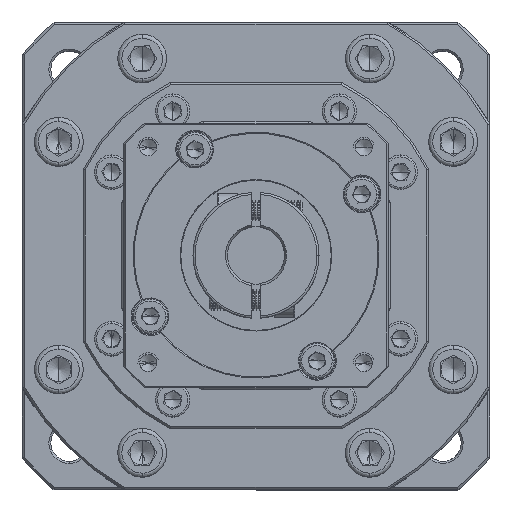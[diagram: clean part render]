
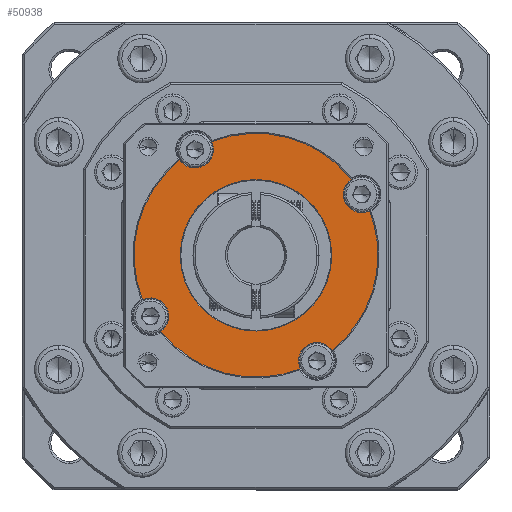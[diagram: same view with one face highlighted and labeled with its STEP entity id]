
A CAD part, top view. The second image highlights one B-rep face of the part: STEP entity #50938.
In plain terms, the highlighted planar face has unit normal (0, 0, 1).
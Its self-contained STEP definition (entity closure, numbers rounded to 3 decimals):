
#77 = PLANE ( 'NONE',  #88003 ) ;
#472 = DIRECTION ( 'NONE',  ( 1., 0., 0. ) ) ;
#1941 = EDGE_CURVE ( 'NONE', #41980, #37303, #7742, .T. ) ;
#3956 = CIRCLE ( 'NONE', #109524, 18.644 ) ;
#6648 = EDGE_CURVE ( 'NONE', #94923, #30327, #40286, .T. ) ;
#7053 = CIRCLE ( 'NONE', #41479, 30. ) ;
#7530 = CARTESIAN_POINT ( 'NONE',  ( -69.313, 52.222, -11.319 ) ) ;
#7742 = CIRCLE ( 'NONE', #78921, 30. ) ;
#8686 = VERTEX_POINT ( 'NONE', #97200 ) ;
#9821 = CARTESIAN_POINT ( 'NONE',  ( -39.313, 0.261, -11.319 ) ) ;
#10437 = CARTESIAN_POINT ( 'NONE',  ( -54.313, 26.241, -11.319 ) ) ;
#11785 = CARTESIAN_POINT ( 'NONE',  ( -69.313, 52.222, -11.319 ) ) ;
#12461 = DIRECTION ( 'NONE',  ( 0., 0., 1. ) ) ;
#12470 = CIRCLE ( 'NONE', #109090, 4.5 ) ;
#12629 = CARTESIAN_POINT ( 'NONE',  ( -28.332, 41.241, -11.319 ) ) ;
#12985 = CARTESIAN_POINT ( 'NONE',  ( -65.258, 54.174, -11.319 ) ) ;
#13155 = ORIENTED_EDGE ( 'NONE', *, *, #45220, .T. ) ;
#13854 = VERTEX_POINT ( 'NONE', #108018 ) ;
#14405 = AXIS2_PLACEMENT_3D ( 'NONE', #78451, #22332, #87800 ) ;
#14513 = EDGE_CURVE ( 'NONE', #41980, #8686, #46157, .T. ) ;
#14715 = VERTEX_POINT ( 'NONE', #74415 ) ;
#15050 = AXIS2_PLACEMENT_3D ( 'NONE', #10437, #75987, #19807 ) ;
#15595 = ORIENTED_EDGE ( 'NONE', *, *, #90322, .F. ) ;
#15859 = DIRECTION ( 'NONE',  ( 0., 0., 1. ) ) ;
#16686 = CIRCLE ( 'NONE', #79458, 4.5 ) ;
#16967 = DIRECTION ( 'NONE',  ( 1., 0., 0. ) ) ;
#18429 = ORIENTED_EDGE ( 'NONE', *, *, #30682, .F. ) ;
#18536 = VERTEX_POINT ( 'NONE', #57305 ) ;
#19194 = DIRECTION ( 'NONE',  ( 1., 0., 0. ) ) ;
#19798 = CARTESIAN_POINT ( 'NONE',  ( -77.758, 7.524, -11.319 ) ) ;
#19807 = DIRECTION ( 'NONE',  ( 1., 0., 0. ) ) ;
#20852 = DIRECTION ( 'NONE',  ( 0., 0., 1. ) ) ;
#21166 = DIRECTION ( 'NONE',  ( 1., 0., 0. ) ) ;
#22007 = DIRECTION ( 'NONE',  ( 1., 0., 0. ) ) ;
#22332 = DIRECTION ( 'NONE',  ( 0., 0., 1. ) ) ;
#24933 = ORIENTED_EDGE ( 'NONE', *, *, #93986, .T. ) ;
#25366 = CARTESIAN_POINT ( 'NONE',  ( -24.313, 26.241, -11.319 ) ) ;
#25790 = CIRCLE ( 'NONE', #110737, 18.644 ) ;
#26848 = CIRCLE ( 'NONE', #15050, 30. ) ;
#27376 = CARTESIAN_POINT ( 'NONE',  ( -28.332, 41.241, -11.319 ) ) ;
#27582 = CIRCLE ( 'NONE', #120538, 30. ) ;
#27841 = CIRCLE ( 'NONE', #119653, 4.5 ) ;
#28562 = CARTESIAN_POINT ( 'NONE',  ( -64.813, 52.222, -11.319 ) ) ;
#30327 = VERTEX_POINT ( 'NONE', #96203 ) ;
#30682 = EDGE_CURVE ( 'NONE', #8686, #43981, #12470, .T. ) ;
#31032 = DIRECTION ( 'NONE',  ( 0., 0., 1. ) ) ;
#31058 = EDGE_CURVE ( 'NONE', #30327, #14715, #16686, .T. ) ;
#31601 = VERTEX_POINT ( 'NONE', #50389 ) ;
#31775 = CARTESIAN_POINT ( 'NONE',  ( -72.957, 26.241, -11.319 ) ) ;
#31873 = ORIENTED_EDGE ( 'NONE', *, *, #1941, .T. ) ;
#34625 = DIRECTION ( 'NONE',  ( 0., 0., 1. ) ) ;
#34691 = FACE_OUTER_BOUND ( 'NONE', #47760, .T. ) ;
#35709 = DIRECTION ( 'NONE',  ( 0., 0., 1. ) ) ;
#36794 = DIRECTION ( 'NONE',  ( 1., 0., 0. ) ) ;
#37303 = VERTEX_POINT ( 'NONE', #25366 ) ;
#38142 = ORIENTED_EDGE ( 'NONE', *, *, #42545, .F. ) ;
#40286 = CIRCLE ( 'NONE', #87481, 4.5 ) ;
#41163 = EDGE_LOOP ( 'NONE', ( #104055, #24933 ) ) ;
#41322 = DIRECTION ( 'NONE',  ( 0., 0., -1. ) ) ;
#41479 = AXIS2_PLACEMENT_3D ( 'NONE', #87106, #31032, #96502 ) ;
#41980 = VERTEX_POINT ( 'NONE', #85293 ) ;
#42545 = EDGE_CURVE ( 'NONE', #18536, #13854, #73528, .T. ) ;
#43981 = VERTEX_POINT ( 'NONE', #67056 ) ;
#44558 = VERTEX_POINT ( 'NONE', #93203 ) ;
#45220 = EDGE_CURVE ( 'NONE', #18536, #104955, #26848, .T. ) ;
#46157 = CIRCLE ( 'NONE', #110915, 4.5 ) ;
#46303 = VERTEX_POINT ( 'NONE', #114191 ) ;
#47760 = EDGE_LOOP ( 'NONE', ( #57871, #92478, #18429, #95070, #31873, #60441, #15595, #38142, #13155, #98175, #73992, #76420, #115460 ) ) ;
#50389 = CARTESIAN_POINT ( 'NONE',  ( -73.03, 49.686, -11.319 ) ) ;
#50493 = CIRCLE ( 'NONE', #116396, 4.5 ) ;
#50938 = ADVANCED_FACE ( 'NONE', ( #59612, #34691 ), #77, .T. ) ;
#51260 = DIRECTION ( 'NONE',  ( 0., 0., -1. ) ) ;
#56475 = DIRECTION ( 'NONE',  ( 0., 0., 1. ) ) ;
#57305 = CARTESIAN_POINT ( 'NONE',  ( -30.868, 44.959, -11.319 ) ) ;
#57871 = ORIENTED_EDGE ( 'NONE', *, *, #6648, .F. ) ;
#59612 = FACE_BOUND ( 'NONE', #41163, .T. ) ;
#60441 = ORIENTED_EDGE ( 'NONE', *, *, #117225, .T. ) ;
#61421 = CIRCLE ( 'NONE', #66560, 4.5 ) ;
#64281 = EDGE_CURVE ( 'NONE', #31601, #14715, #78120, .T. ) ;
#66560 = AXIS2_PLACEMENT_3D ( 'NONE', #12629, #78131, #22007 ) ;
#66784 = EDGE_CURVE ( 'NONE', #109940, #104955, #27841, .T. ) ;
#67056 = CARTESIAN_POINT ( 'NONE',  ( -43.368, -1.691, -11.319 ) ) ;
#67235 = AXIS2_PLACEMENT_3D ( 'NONE', #27376, #92843, #36794 ) ;
#68559 = CARTESIAN_POINT ( 'NONE',  ( -80.294, 11.241, -11.319 ) ) ;
#71983 = CARTESIAN_POINT ( 'NONE',  ( -39.313, 0.261, -11.319 ) ) ;
#73080 = DIRECTION ( 'NONE',  ( 0., 0., 1. ) ) ;
#73528 = CIRCLE ( 'NONE', #67235, 4.5 ) ;
#73992 = ORIENTED_EDGE ( 'NONE', *, *, #83092, .F. ) ;
#74415 = CARTESIAN_POINT ( 'NONE',  ( -82.245, 15.296, -11.319 ) ) ;
#75364 = DIRECTION ( 'NONE',  ( 0., 0., 1. ) ) ;
#75987 = DIRECTION ( 'NONE',  ( 0., 0., 1. ) ) ;
#76420 = ORIENTED_EDGE ( 'NONE', *, *, #64281, .T. ) ;
#77016 = CARTESIAN_POINT ( 'NONE',  ( -80.294, 11.241, -11.319 ) ) ;
#77296 = DIRECTION ( 'NONE',  ( 0., 0., 1. ) ) ;
#77967 = DIRECTION ( 'NONE',  ( 1., 0., 0. ) ) ;
#78120 = CIRCLE ( 'NONE', #14405, 30. ) ;
#78131 = DIRECTION ( 'NONE',  ( 0., 0., 1. ) ) ;
#78451 = CARTESIAN_POINT ( 'NONE',  ( -54.313, 26.241, -11.319 ) ) ;
#78921 = AXIS2_PLACEMENT_3D ( 'NONE', #91763, #35709, #101130 ) ;
#79458 = AXIS2_PLACEMENT_3D ( 'NONE', #68559, #12461, #77967 ) ;
#81338 = DIRECTION ( 'NONE',  ( 1., 0., 0. ) ) ;
#83092 = EDGE_CURVE ( 'NONE', #31601, #109940, #50493, .T. ) ;
#85293 = CARTESIAN_POINT ( 'NONE',  ( -35.596, 2.797, -11.319 ) ) ;
#86339 = DIRECTION ( 'NONE',  ( 1., 0., 0. ) ) ;
#87106 = CARTESIAN_POINT ( 'NONE',  ( -54.313, 26.241, -11.319 ) ) ;
#87481 = AXIS2_PLACEMENT_3D ( 'NONE', #77016, #20852, #86339 ) ;
#87800 = DIRECTION ( 'NONE',  ( 1., 0., 0. ) ) ;
#88003 = AXIS2_PLACEMENT_3D ( 'NONE', #112423, #56475, #472 ) ;
#90322 = EDGE_CURVE ( 'NONE', #13854, #44558, #61421, .T. ) ;
#90589 = EDGE_CURVE ( 'NONE', #94923, #43981, #27582, .T. ) ;
#90691 = CARTESIAN_POINT ( 'NONE',  ( -54.313, 26.241, -11.319 ) ) ;
#91763 = CARTESIAN_POINT ( 'NONE',  ( -54.313, 26.241, -11.319 ) ) ;
#92478 = ORIENTED_EDGE ( 'NONE', *, *, #90589, .T. ) ;
#92843 = DIRECTION ( 'NONE',  ( 0., 0., 1. ) ) ;
#93203 = CARTESIAN_POINT ( 'NONE',  ( -26.381, 37.187, -11.319 ) ) ;
#93986 = EDGE_CURVE ( 'NONE', #108498, #46303, #3956, .T. ) ;
#94923 = VERTEX_POINT ( 'NONE', #19798 ) ;
#95070 = ORIENTED_EDGE ( 'NONE', *, *, #14513, .F. ) ;
#96203 = CARTESIAN_POINT ( 'NONE',  ( -75.794, 11.241, -11.319 ) ) ;
#96502 = DIRECTION ( 'NONE',  ( 1., 0., 0. ) ) ;
#97200 = CARTESIAN_POINT ( 'NONE',  ( -43.813, 0.261, -11.319 ) ) ;
#97342 = CARTESIAN_POINT ( 'NONE',  ( -54.313, 26.241, -11.319 ) ) ;
#98175 = ORIENTED_EDGE ( 'NONE', *, *, #66784, .F. ) ;
#100065 = DIRECTION ( 'NONE',  ( 1., 0., 0. ) ) ;
#101130 = DIRECTION ( 'NONE',  ( 1., 0., 0. ) ) ;
#104055 = ORIENTED_EDGE ( 'NONE', *, *, #114360, .T. ) ;
#104955 = VERTEX_POINT ( 'NONE', #12985 ) ;
#106707 = DIRECTION ( 'NONE',  ( 1., 0., 0. ) ) ;
#107217 = CARTESIAN_POINT ( 'NONE',  ( -54.313, 26.241, -11.319 ) ) ;
#108018 = CARTESIAN_POINT ( 'NONE',  ( -32.832, 41.241, -11.319 ) ) ;
#108498 = VERTEX_POINT ( 'NONE', #31775 ) ;
#109090 = AXIS2_PLACEMENT_3D ( 'NONE', #9821, #75364, #19194 ) ;
#109524 = AXIS2_PLACEMENT_3D ( 'NONE', #97342, #41322, #106707 ) ;
#109940 = VERTEX_POINT ( 'NONE', #28562 ) ;
#110737 = AXIS2_PLACEMENT_3D ( 'NONE', #107217, #51260, #116600 ) ;
#110915 = AXIS2_PLACEMENT_3D ( 'NONE', #71983, #15859, #81338 ) ;
#112423 = CARTESIAN_POINT ( 'NONE',  ( -54.313, 26.241, -11.319 ) ) ;
#114191 = CARTESIAN_POINT ( 'NONE',  ( -35.669, 26.241, -11.319 ) ) ;
#114360 = EDGE_CURVE ( 'NONE', #46303, #108498, #25790, .T. ) ;
#115460 = ORIENTED_EDGE ( 'NONE', *, *, #31058, .F. ) ;
#116396 = AXIS2_PLACEMENT_3D ( 'NONE', #11785, #77296, #21166 ) ;
#116600 = DIRECTION ( 'NONE',  ( 1., 0., 0. ) ) ;
#117225 = EDGE_CURVE ( 'NONE', #37303, #44558, #7053, .T. ) ;
#119653 = AXIS2_PLACEMENT_3D ( 'NONE', #7530, #73080, #16967 ) ;
#120538 = AXIS2_PLACEMENT_3D ( 'NONE', #90691, #34625, #100065 ) ;
